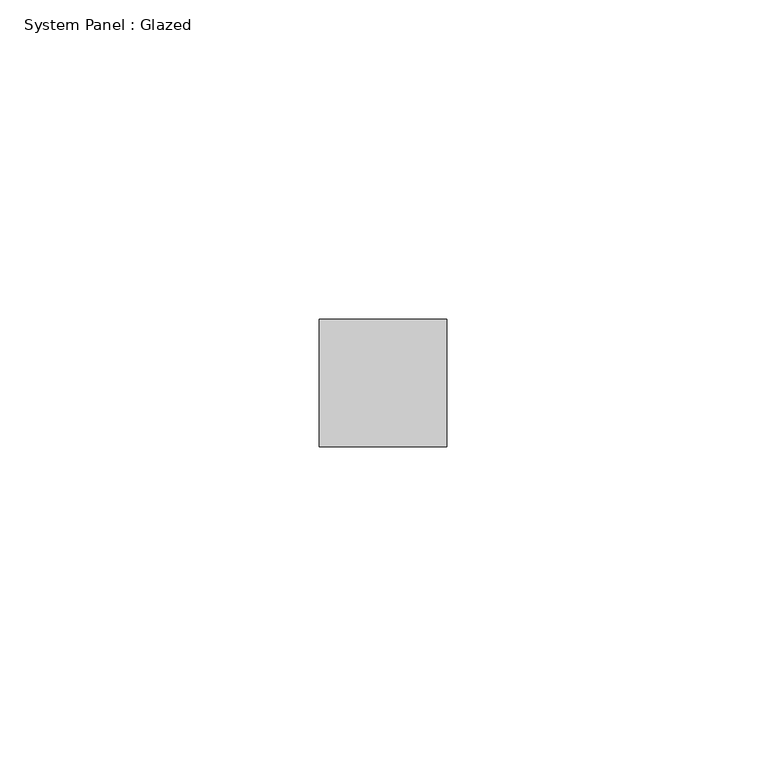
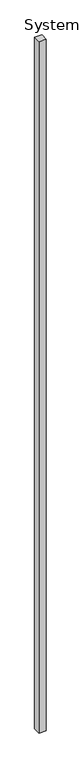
"""IFC4 building model written with IfcOpenShell, lengths in millimetres: plate geometry, System Panel : Glazed."""

from ifc_helpers import new_model, si_unit, origin, origin_with_axes, place, context, project, spatial, polyline, outline, extrude, source, transform, mapped, element, save


def system_panel_glazed_8939cce6(model_context):
    return source(origin(), model_context, "Body", "SweptSolid", [
        extrude(outline(polyline([(10.0, -20.0), (-10.0, -20.0), (-10.0, 0.0), (10.0, 0.0), (10.0, -20.0)])), origin_with_axes(), (0.0, 0.0, 1.0), 2000.0),
    ])


if __name__ == "__main__":
    model = new_model("IFC4")
    model_context = context("Model", 3, world=origin())
    ifc_project = project(units=[si_unit("LENGTHUNIT", "METRE", prefix="MILLI")], contexts=[model_context])
    site = spatial("IfcSite", under=ifc_project)
    building = spatial("IfcBuilding", under=site)
    placement = place(None, origin())
    system_panel_glazed_shape = system_panel_glazed_8939cce6(model_context)
    element("IfcPlate", 1, ObjectType="System Panel : Glazed", at=placement, inside=building, context=model_context, shape_type="MappedRepresentation", body=[
        mapped(system_panel_glazed_shape, transform((0.0, 0.0, 0.0), x_axis=(1.0, 0.0, 0.0), y_axis=(0.0, 1.0, 0.0), z_axis=(0.0, 0.0, 1.0))),
    ])
    save(model, "model.ifc")
